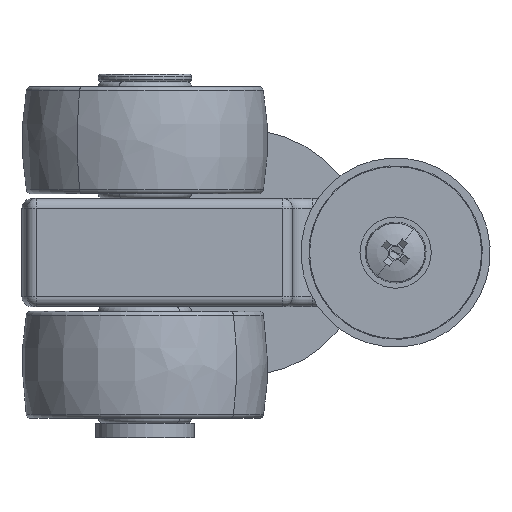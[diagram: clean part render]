
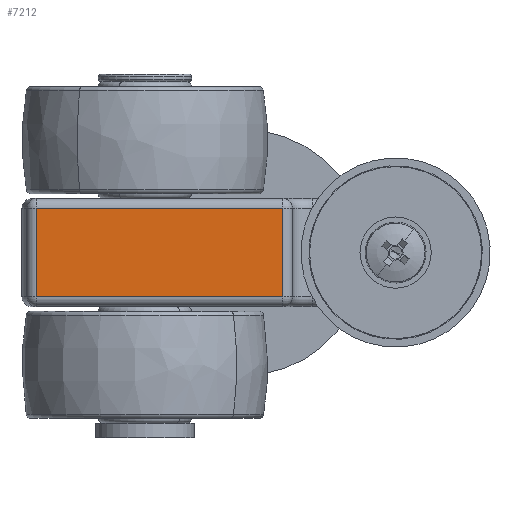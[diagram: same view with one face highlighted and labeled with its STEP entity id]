
A CAD part, front view. The second image highlights one B-rep face of the part: STEP entity #7212.
In plain terms, the highlighted planar face has unit normal (0, -1, 0).
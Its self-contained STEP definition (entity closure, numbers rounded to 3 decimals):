
#273 = CARTESIAN_POINT ( 'NONE',  ( -42.077, 0., 11. ) ) ;
#1242 = CARTESIAN_POINT ( 'NONE',  ( -42.077, 0., 11. ) ) ;
#1721 = ORIENTED_EDGE ( 'NONE', *, *, #14305, .F. ) ;
#2079 = DIRECTION ( 'NONE',  ( 0., 0., -1. ) ) ;
#2491 = DIRECTION ( 'NONE',  ( 0., 0., -1. ) ) ;
#2693 = DIRECTION ( 'NONE',  ( 0., 1., 0. ) ) ;
#4821 = ORIENTED_EDGE ( 'NONE', *, *, #6706, .T. ) ;
#5381 = DIRECTION ( 'NONE',  ( 1., 0., 0. ) ) ;
#5773 = VECTOR ( 'NONE', #16136, 1000. ) ;
#5933 = LINE ( 'NONE', #13575, #15025 ) ;
#6706 = EDGE_CURVE ( 'NONE', #14979, #15868, #11202, .T. ) ;
#7138 = EDGE_LOOP ( 'NONE', ( #8823, #4821, #1721, #9273 ) ) ;
#7212 = ADVANCED_FACE ( 'NONE', ( #11763 ), #11518, .F. ) ;
#7270 = VERTEX_POINT ( 'NONE', #15953 ) ;
#7423 = DIRECTION ( 'NONE',  ( 1., 0., 0. ) ) ;
#7842 = EDGE_CURVE ( 'NONE', #7270, #14979, #11638, .T. ) ;
#8335 = CARTESIAN_POINT ( 'NONE',  ( 8., 0., -9. ) ) ;
#8438 = AXIS2_PLACEMENT_3D ( 'NONE', #273, #2693, #5381 ) ;
#8823 = ORIENTED_EDGE ( 'NONE', *, *, #7842, .T. ) ;
#9273 = ORIENTED_EDGE ( 'NONE', *, *, #11327, .T. ) ;
#9417 = LINE ( 'NONE', #13372, #5773 ) ;
#10340 = VECTOR ( 'NONE', #2491, 1000. ) ;
#11202 = LINE ( 'NONE', #13717, #16343 ) ;
#11327 = EDGE_CURVE ( 'NONE', #13256, #7270, #9417, .T. ) ;
#11518 = PLANE ( 'NONE',  #8438 ) ;
#11638 = LINE ( 'NONE', #1242, #10340 ) ;
#11763 = FACE_OUTER_BOUND ( 'NONE', #7138, .T. ) ;
#12308 = CARTESIAN_POINT ( 'NONE',  ( 8., 0., 9. ) ) ;
#13256 = VERTEX_POINT ( 'NONE', #12308 ) ;
#13372 = CARTESIAN_POINT ( 'NONE',  ( -42.077, 0., 9. ) ) ;
#13575 = CARTESIAN_POINT ( 'NONE',  ( 8., 0., 11. ) ) ;
#13717 = CARTESIAN_POINT ( 'NONE',  ( 8., 0., -9. ) ) ;
#13772 = CARTESIAN_POINT ( 'NONE',  ( -42.077, 0., -9. ) ) ;
#14305 = EDGE_CURVE ( 'NONE', #13256, #15868, #5933, .T. ) ;
#14979 = VERTEX_POINT ( 'NONE', #13772 ) ;
#15025 = VECTOR ( 'NONE', #2079, 1000. ) ;
#15868 = VERTEX_POINT ( 'NONE', #8335 ) ;
#15953 = CARTESIAN_POINT ( 'NONE',  ( -42.077, 0., 9. ) ) ;
#16136 = DIRECTION ( 'NONE',  ( -1., 0., 0. ) ) ;
#16343 = VECTOR ( 'NONE', #7423, 1000. ) ;
